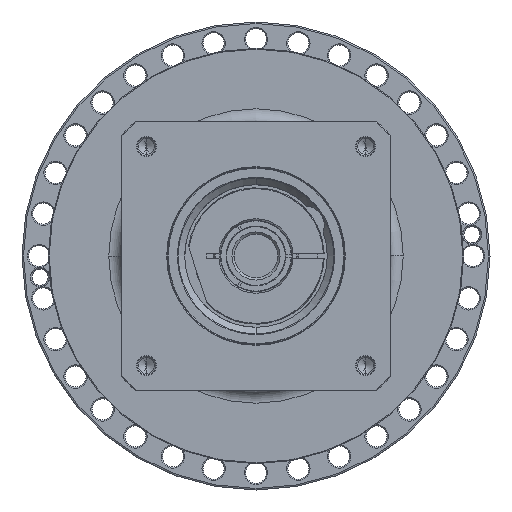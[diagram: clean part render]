
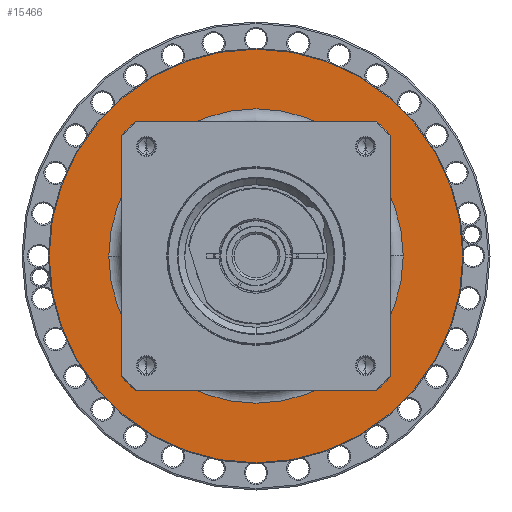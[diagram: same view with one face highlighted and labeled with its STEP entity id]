
A CAD part, left-side view. The second image highlights one B-rep face of the part: STEP entity #15466.
In plain terms, the highlighted planar face has unit normal (-1, 0, 0) as drawn and (1, 0, 0) by its records, which use the part's own axes.
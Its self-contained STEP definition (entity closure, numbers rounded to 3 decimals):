
#14945=CARTESIAN_POINT('',(-10.,0.,0.));
#14946=DIRECTION('',(-1.,0.,0.));
#14947=DIRECTION('',(0.,-1.,0.));
#14948=AXIS2_PLACEMENT_3D('',#14945,#14946,#14947);
#14950=CARTESIAN_POINT('',(-10.,0.,0.));
#14951=DIRECTION('',(-1.,0.,0.));
#14952=DIRECTION('',(0.,1.,0.));
#14953=AXIS2_PLACEMENT_3D('',#14950,#14951,#14952);
#14955=CARTESIAN_POINT('',(-10.,0.,0.));
#14956=DIRECTION('',(-1.,0.,0.));
#14957=DIRECTION('',(0.,-1.,0.));
#14958=AXIS2_PLACEMENT_3D('',#14955,#14956,#14957);
#14960=CARTESIAN_POINT('',(-10.,0.,0.));
#14961=DIRECTION('',(-1.,0.,0.));
#14962=DIRECTION('',(0.,1.,0.));
#14963=AXIS2_PLACEMENT_3D('',#14960,#14961,#14962);
#15029=CARTESIAN_POINT('',(-10.,-133.5,0.));
#15030=CARTESIAN_POINT('',(-10.,133.5,0.));
#15031=VERTEX_POINT('',#15029);
#15032=VERTEX_POINT('',#15030);
#15053=CARTESIAN_POINT('',(-10.,-95.,0.));
#15054=CARTESIAN_POINT('',(-10.,95.,0.));
#15055=VERTEX_POINT('',#15053);
#15056=VERTEX_POINT('',#15054);
#15451=CARTESIAN_POINT('',(-10.,0.,0.));
#15452=DIRECTION('',(1.,0.,0.));
#15453=DIRECTION('',(0.,-1.,0.));
#15454=AXIS2_PLACEMENT_3D('',#15451,#15452,#15453);
#15455=PLANE('',#15454);
#15456=ORIENTED_EDGE('',*,*,#15392,.T.);
#15457=ORIENTED_EDGE('',*,*,#15407,.T.);
#15458=EDGE_LOOP('',(#15456,#15457));
#15459=FACE_OUTER_BOUND('',#15458,.F.);
#15461=ORIENTED_EDGE('',*,*,#15460,.F.);
#15463=ORIENTED_EDGE('',*,*,#15462,.F.);
#15464=EDGE_LOOP('',(#15461,#15463));
#15465=FACE_BOUND('',#15464,.F.);
#15466=ADVANCED_FACE('',(#15459,#15465),#15455,.T.);
#14949=CIRCLE('',#14948,95.);
#14954=CIRCLE('',#14953,95.);
#14959=CIRCLE('',#14958,133.5);
#14964=CIRCLE('',#14963,133.5);
#15392=EDGE_CURVE('',#15031,#15032,#14959,.T.);
#15407=EDGE_CURVE('',#15032,#15031,#14964,.T.);
#15460=EDGE_CURVE('',#15055,#15056,#14949,.T.);
#15462=EDGE_CURVE('',#15056,#15055,#14954,.T.);
